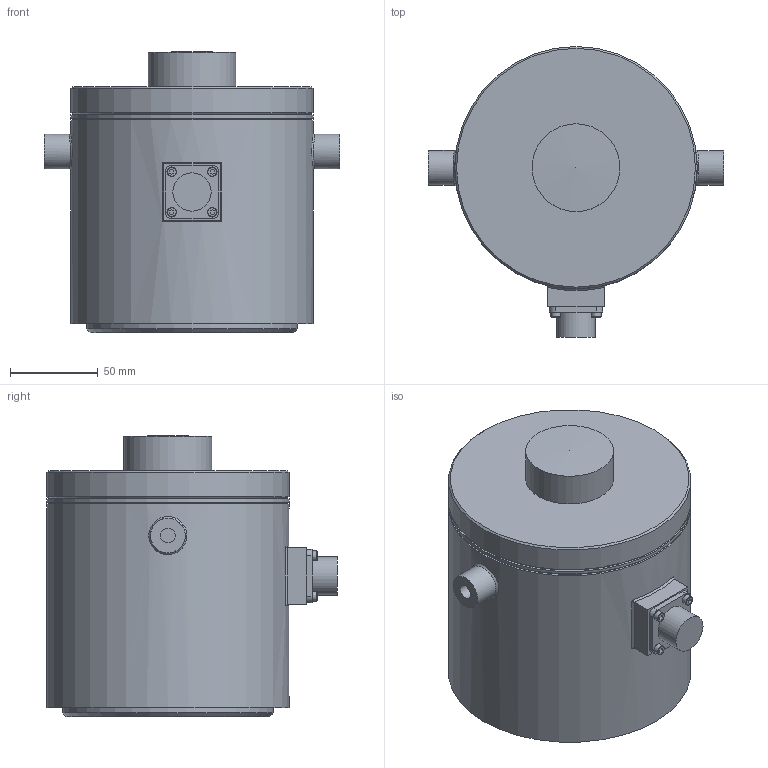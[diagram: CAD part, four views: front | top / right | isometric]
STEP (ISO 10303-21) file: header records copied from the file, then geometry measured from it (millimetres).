
FILE_DESCRIPTION(/* description */ ('Unknown'),/* implementation_level */ '2;1');
FILE_NAME(/* name */ 'C3XK-T030 to T050 SPEC',/* time_stamp */ '2021-05-11T15:26:08+09:00',/* author */ ('Unknown'),/* organization */ ('Unknown'),/* preprocessor_version */ 'ST-DEVELOPER v16.7',/* originating_system */ 'DEX',/* authorisation */ $);
FILE_SCHEMA (('AUTOMOTIVE_DESIGN {1 0 10303 214 3 1 1}'));
Length unit declared in the file: millimetre
Products named in the file (1): C3XK-T030 to T050 SPEC
Bounding box: 168 x 165.5 x 160 mm (x, y, z)
Volume: 2138143.5 mm3; surface area: 100920.6 mm2
Topology: 1 solids, 1 shells, 94 faces, 212 edges, 139 vertices
Faces by surface type: plane 56, cylinder 19, cone 10, bspline 6, torus 2, sphere 1
Full cylindrical faces by diameter (mm): 5.5 x4, 8.376 x2, 10 x1, 19.8 x2, 21.8 x1, 50 x1, 120 x1, 138 x3
Entity records: 3769 total; most frequent: CARTESIAN_POINT 1174, DIRECTION 380, ORIENTED_EDGE 342, EDGE_CURVE 171, FACE_BOUND 143, EDGE_LOOP 142, AXIS2_PLACEMENT_3D 140, VERTEX_POINT 128
